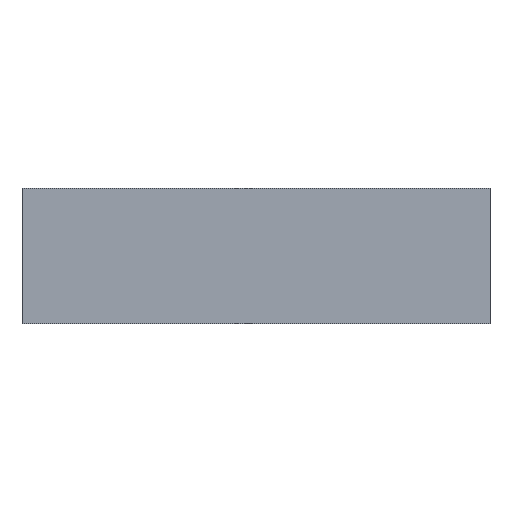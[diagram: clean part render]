
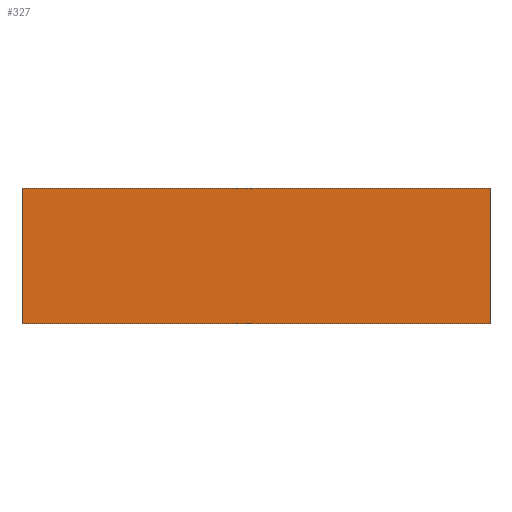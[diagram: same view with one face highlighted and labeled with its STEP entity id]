
A CAD part, top view. The second image highlights one B-rep face of the part: STEP entity #327.
In plain terms, the highlighted planar face has unit normal (0, 0, 1).
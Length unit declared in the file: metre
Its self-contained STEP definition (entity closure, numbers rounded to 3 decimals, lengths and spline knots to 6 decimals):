
#20=ORIENTED_EDGE('',*,*,#112,.F.);
#21=ORIENTED_EDGE('',*,*,#113,.F.);
#22=ORIENTED_EDGE('',*,*,#114,.T.);
#23=ORIENTED_EDGE('',*,*,#115,.T.);
#112=EDGE_CURVE('',#158,#159,#188,.T.);
#113=EDGE_CURVE('',#160,#158,#189,.T.);
#114=EDGE_CURVE('',#160,#161,#190,.T.);
#115=EDGE_CURVE('',#161,#159,#191,.T.);
#158=VERTEX_POINT('',#479);
#159=VERTEX_POINT('',#480);
#160=VERTEX_POINT('',#482);
#161=VERTEX_POINT('',#484);
#188=LINE('',#478,#234);
#189=LINE('',#481,#235);
#190=LINE('',#483,#236);
#191=LINE('',#485,#237);
#234=VECTOR('',#389,1.);
#235=VECTOR('',#390,1.);
#236=VECTOR('',#391,1.);
#237=VECTOR('',#392,1.);
#273=EDGE_LOOP('',(#20,#21,#22,#23));
#291=FACE_BOUND('',#273,.T.);
#309=PLANE('',#358);
#327=ADVANCED_FACE('',(#291),#309,.T.);
#358=AXIS2_PLACEMENT_3D('',#477,#387,#388);
#387=DIRECTION('',(0.,0.,1.));
#388=DIRECTION('',(1.,0.,0.));
#389=DIRECTION('',(1.,0.,0.));
#390=DIRECTION('',(0.,1.,0.));
#391=DIRECTION('',(1.,0.,0.));
#392=DIRECTION('',(0.,1.,0.));
#477=CARTESIAN_POINT('',(0.00125,-0.0038,0.03315));
#478=CARTESIAN_POINT('',(0.00125,0.01305,0.03315));
#479=CARTESIAN_POINT('',(-0.02785,0.01305,0.03315));
#480=CARTESIAN_POINT('',(0.03035,0.01305,0.03315));
#481=CARTESIAN_POINT('',(-0.02785,-0.0038,0.03315));
#482=CARTESIAN_POINT('',(-0.02785,-0.0038,0.03315));
#483=CARTESIAN_POINT('',(0.00125,-0.0038,0.03315));
#484=CARTESIAN_POINT('',(0.03035,-0.0038,0.03315));
#485=CARTESIAN_POINT('',(0.03035,-0.0038,0.03315));
